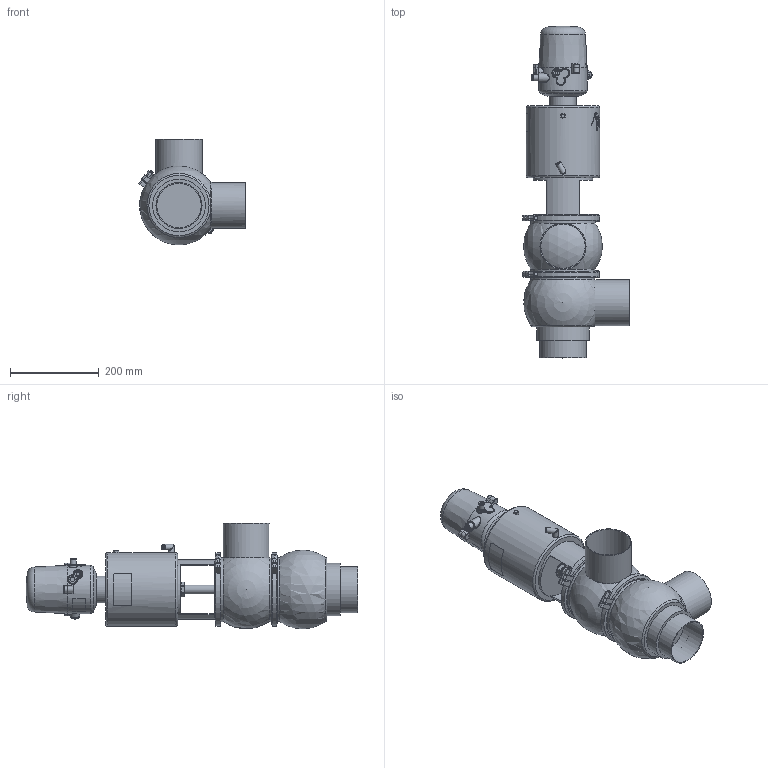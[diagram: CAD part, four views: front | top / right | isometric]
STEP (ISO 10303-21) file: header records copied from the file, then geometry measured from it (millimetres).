
FILE_DESCRIPTION (( 'STEP AP214' ), '1' );
FILE_NAME ('INNOVA K H W DIN 100 T4 AS NC & C-TOP S_10.240.16.0073.STEP', '2024-08-06T08:54:10', ( '' ), ( '' ), 'SwSTEP 2.0', 'SolidWorks 2023', '' );
FILE_SCHEMA (( 'AUTOMOTIVE_DESIGN' ));
Length unit declared in the file: millimetre
Products named in the file (8): 10.240.15.0014_T4 AS P0; 10.240.15.0001_DN 100; 10.240.15.0017_Estàndard; 10.240.15.0006_DIN 100; 10.426.15.0001_C-TOP S - 1 EV; 10.240.15.0002_DIN 100; 10.240.15.0010_DN 100; INNOVA K H W DIN 100 T4 AS NC & C-TOP S_10.240.16.0073
Assembly tree (8 placements, depth 2):
  INNOVA K H W DIN 100 T4 AS NC & C-TOP S_10.240.16.0073
    10.240.15.0006_DIN 100
    10.240.15.0002_DIN 100
    10.240.15.0010_DN 100
    10.240.15.0014_T4 AS P0
    10.240.15.0017_Estàndard
    10.426.15.0001_C-TOP S - 1 EV
    10.240.15.0001_DN 100  x2
Bounding box: 241.26 x 749 x 239 mm (x, y, z)
Volume: 10877884.3 mm3; surface area: 727157.2 mm2
Topology: 8 solids, 8 shells, 1172 faces, 2841 edges, 1891 vertices
Faces by surface type: plane 410, cylinder 356, cone 201, bspline 160, torus 37, sphere 8
Full cylindrical faces by diameter (mm): 0.371 x17, 0.512 x16, 0.658 x16, 0.795 x16, 0.94 x15, 1.098 x15, 1.241 x13, 1.382 x13, 1.523 x11, 1.669 x10, 2.201 x1, 4 x2, 5.5 x2, 6 x2, 6.15 x1, 8 x6, 8.5 x1, 10 x1, 10.5 x1, 11 x2, 12.5 x3, 13 x2, 13.5 x2, 16 x1, 17 x3, 20 x3, 20.5 x1, 22 x2, 31 x1, 34.5 x3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
Entity records: 58081 total; most frequent: CARTESIAN_POINT 27862, ORIENTED_EDGE 4520, DIRECTION 3651, EDGE_CURVE 2260, VERTEX_POINT 1607, EDGE_LOOP 1567, AXIS2_PLACEMENT_3D 1497, FACE_OUTER_BOUND 1329
